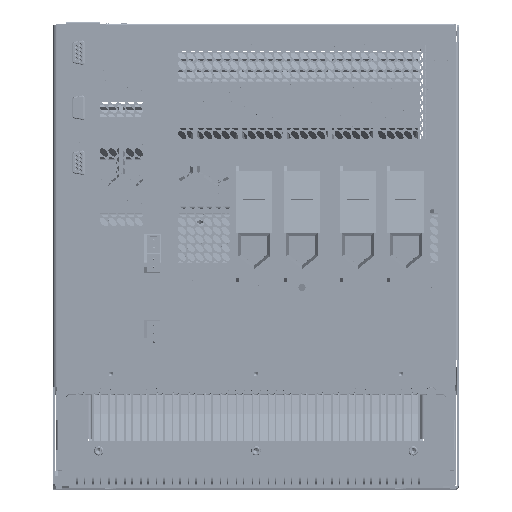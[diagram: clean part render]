
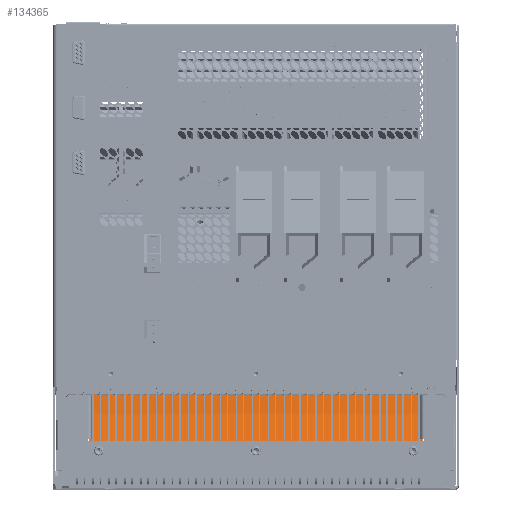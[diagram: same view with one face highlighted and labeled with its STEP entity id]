
A CAD part, top view. The second image highlights one B-rep face of the part: STEP entity #134365.
In plain terms, the highlighted cylindrical face has radius 128.33 mm (diameter 256.66 mm), a partial arc.
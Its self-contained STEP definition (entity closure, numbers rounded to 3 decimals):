
#134365=ADVANCED_FACE('',(#150782),#143843,.F.);
#143843=CYLINDRICAL_SURFACE('',#379303,128.33);
#150782=FACE_OUTER_BOUND('',#169148,.T.);
#169148=EDGE_LOOP('',(#262305,#262306,#262307,#262308));
#186409=LINE('',#530318,#211586);
#186412=LINE('',#530326,#211589);
#211586=VECTOR('',#404975,1.);
#211589=VECTOR('',#404982,1.);
#262305=ORIENTED_EDGE('',*,*,#348812,.T.);
#262306=ORIENTED_EDGE('',*,*,#348813,.F.);
#262307=ORIENTED_EDGE('',*,*,#348814,.F.);
#262308=ORIENTED_EDGE('',*,*,#348809,.T.);
#317753=VERTEX_POINT('',#530317);
#317754=VERTEX_POINT('',#530319);
#317756=VERTEX_POINT('',#530325);
#317757=VERTEX_POINT('',#530327);
#348809=EDGE_CURVE('',#317754,#317753,#186409,.T.);
#348812=EDGE_CURVE('',#317753,#317756,#372769,.T.);
#348813=EDGE_CURVE('',#317757,#317756,#186412,.T.);
#348814=EDGE_CURVE('',#317754,#317757,#372770,.T.);
#372769=CIRCLE('',#379301,128.33);
#372770=CIRCLE('',#379302,128.33);
#379301=AXIS2_PLACEMENT_3D('',#530324,#404980,#404981);
#379302=AXIS2_PLACEMENT_3D('',#530328,#404983,#404984);
#379303=AXIS2_PLACEMENT_3D('',#530329,#404985,#404986);
#404975=DIRECTION('',(1.,0.,0.));
#404980=DIRECTION('',(1.,0.,0.));
#404981=DIRECTION('',(0.,0.,1.));
#404982=DIRECTION('',(1.,0.,0.));
#404983=DIRECTION('',(1.,0.,0.));
#404984=DIRECTION('',(0.,0.,1.));
#404985=DIRECTION('',(1.,0.,0.));
#404986=DIRECTION('',(0.,0.,-1.));
#530317=CARTESIAN_POINT('',(103.24,-0.328,-178.5));
#530318=CARTESIAN_POINT('',(-126.76,-0.328,-178.5));
#530319=CARTESIAN_POINT('',(-126.76,-0.328,-178.5));
#530324=CARTESIAN_POINT('',(103.24,65.431,-68.299));
#530325=CARTESIAN_POINT('',(103.24,59.681,-196.5));
#530326=CARTESIAN_POINT('',(-126.76,59.681,-196.5));
#530327=CARTESIAN_POINT('',(-126.76,59.681,-196.5));
#530328=CARTESIAN_POINT('',(-126.76,65.431,-68.299));
#530329=CARTESIAN_POINT('',(-126.76,65.431,-68.299));
